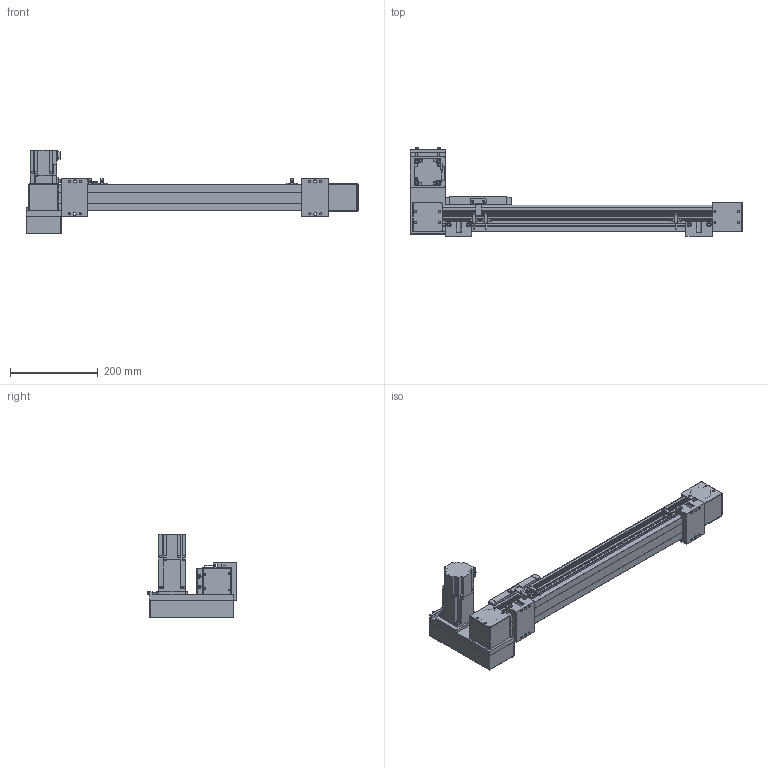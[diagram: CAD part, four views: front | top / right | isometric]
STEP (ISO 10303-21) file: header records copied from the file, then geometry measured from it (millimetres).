
FILE_DESCRIPTION(/* description */ ('STEP AP214'),/* implementation_level */ '2;1');
FILE_NAME(/* name */ 'SK60-P13-S450-LU-T40-C1-N(0)',/* time_stamp */ '2023-04-06T04:47:13+02:00',/* author */ ('License CC BY-ND 4.0'),/* organization */ ('CADENAS'),/* preprocessor_version */ 'ST-DEVELOPER v19.3',/* originating_system */ 'PARTsolutions',/* authorisation */ ' ');
FILE_SCHEMA (('AUTOMOTIVE_DESIGN {1 0 10303 214 3 1 1}'));
Length unit declared in the file: millimetre
Products named in the file (10): SK60-P13-S450-LU-T40-C1-N(0); PSC140-sensor; SK60-S450_seat; SK60-S450-BL-C1_slider; SK60_body3; SK60_body6; SK60-BL_body2; T40-p1; SK60-LU_fb; SK60-S450-LU-C1_body
Assembly tree (16 placements, depth 2):
  SK60-P13-S450-LU-T40-C1-N(0)
    PSC140-sensor  x3
    SK60-S450_seat  x2
    SK60-S450-BL-C1_slider
    SK60_body3  x3
    SK60_body6  x2
    SK60-BL_body2  x2
    T40-p1
    SK60-LU_fb
    SK60-S450-LU-C1_body
Bounding box: 755.5 x 201 x 189.7 mm (x, y, z)
Volume: 3806199.2 mm3; surface area: 515223.4 mm2
Topology: 16 solids, 16 shells, 810 faces, 2048 edges, 1349 vertices
Faces by surface type: plane 524, cylinder 262, cone 22, torus 2
Full cylindrical faces by diameter (mm): 2.8 x3, 3.3 x4, 4 x2, 4.5 x30, 4.6 x3, 4.917 x16, 5 x6, 5.478 x4, 5.5 x19, 6.5 x4, 7 x2, 8 x4, 8.5 x4, 9.988 x4, 10 x8, 14 x1, 47 x3, 50 x2
Entity records: 18655 total; most frequent: DIRECTION 3184, CARTESIAN_POINT 3150, ORIENTED_EDGE 2940, EDGE_CURVE 1470, AXIS2_PLACEMENT_3D 1068, LINE 1048, VECTOR 1048, VERTEX_POINT 1034
